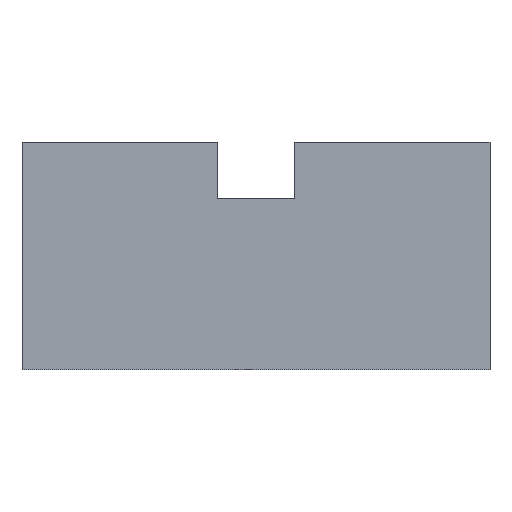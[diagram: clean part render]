
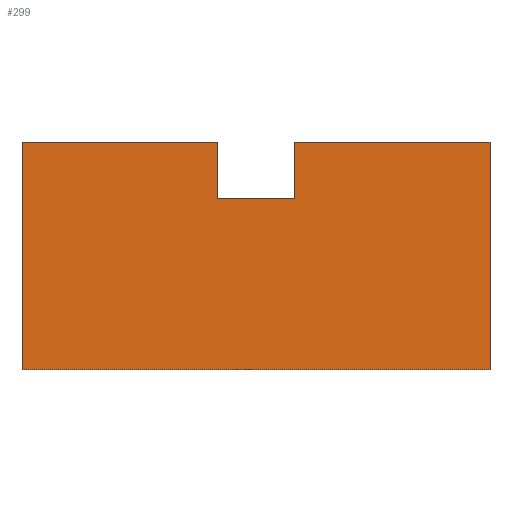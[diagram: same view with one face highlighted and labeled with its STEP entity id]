
A CAD part, top view. The second image highlights one B-rep face of the part: STEP entity #299.
In plain terms, the highlighted planar face has unit normal (0, 0, 1).
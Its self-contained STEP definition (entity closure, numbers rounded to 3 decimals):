
#42 = VERTEX_POINT('',#43);
#43 = CARTESIAN_POINT('',(103.73,-50.47,1.51));
#49 = EDGE_CURVE('',#42,#50,#52,.T.);
#50 = VERTEX_POINT('',#51);
#51 = CARTESIAN_POINT('',(106.77,-50.47,1.51));
#52 = LINE('',#53,#54);
#53 = CARTESIAN_POINT('',(103.73,-50.47,1.51));
#54 = VECTOR('',#55,1.);
#55 = DIRECTION('',(1.,0.,0.));
#80 = EDGE_CURVE('',#50,#81,#83,.T.);
#81 = VERTEX_POINT('',#82);
#82 = CARTESIAN_POINT('',(106.77,-48.25,1.51));
#83 = LINE('',#84,#85);
#84 = CARTESIAN_POINT('',(106.77,-50.47,1.51));
#85 = VECTOR('',#86,1.);
#86 = DIRECTION('',(0.,1.,0.));
#111 = EDGE_CURVE('',#81,#112,#114,.T.);
#112 = VERTEX_POINT('',#113);
#113 = CARTESIAN_POINT('',(114.45,-48.25,1.51));
#114 = LINE('',#115,#116);
#115 = CARTESIAN_POINT('',(106.77,-48.25,1.51));
#116 = VECTOR('',#117,1.);
#117 = DIRECTION('',(1.,0.,0.));
#142 = EDGE_CURVE('',#112,#143,#145,.T.);
#143 = VERTEX_POINT('',#144);
#144 = CARTESIAN_POINT('',(114.45,-57.2,1.51));
#145 = LINE('',#146,#147);
#146 = CARTESIAN_POINT('',(114.45,-48.25,1.51));
#147 = VECTOR('',#148,1.);
#148 = DIRECTION('',(0.,-1.,0.));
#173 = EDGE_CURVE('',#143,#174,#176,.T.);
#174 = VERTEX_POINT('',#175);
#175 = CARTESIAN_POINT('',(96.05,-57.2,1.51));
#176 = LINE('',#177,#178);
#177 = CARTESIAN_POINT('',(114.45,-57.2,1.51));
#178 = VECTOR('',#179,1.);
#179 = DIRECTION('',(-1.,0.,0.));
#204 = EDGE_CURVE('',#174,#205,#207,.T.);
#205 = VERTEX_POINT('',#206);
#206 = CARTESIAN_POINT('',(96.05,-48.25,1.51));
#207 = LINE('',#208,#209);
#208 = CARTESIAN_POINT('',(96.05,-57.2,1.51));
#209 = VECTOR('',#210,1.);
#210 = DIRECTION('',(0.,1.,0.));
#235 = EDGE_CURVE('',#205,#236,#238,.T.);
#236 = VERTEX_POINT('',#237);
#237 = CARTESIAN_POINT('',(103.73,-48.25,1.51));
#238 = LINE('',#239,#240);
#239 = CARTESIAN_POINT('',(96.05,-48.25,1.51));
#240 = VECTOR('',#241,1.);
#241 = DIRECTION('',(1.,0.,0.));
#266 = EDGE_CURVE('',#236,#42,#267,.T.);
#267 = LINE('',#268,#269);
#268 = CARTESIAN_POINT('',(103.73,-48.25,1.51));
#269 = VECTOR('',#270,1.);
#270 = DIRECTION('',(0.,-1.,0.));
#299 = ADVANCED_FACE('',(#300),#310,.T.);
#300 = FACE_BOUND('',#301,.F.);
#301 = EDGE_LOOP('',(#302,#303,#304,#305,#306,#307,#308,#309));
#302 = ORIENTED_EDGE('',*,*,#49,.T.);
#303 = ORIENTED_EDGE('',*,*,#80,.T.);
#304 = ORIENTED_EDGE('',*,*,#111,.T.);
#305 = ORIENTED_EDGE('',*,*,#142,.T.);
#306 = ORIENTED_EDGE('',*,*,#173,.T.);
#307 = ORIENTED_EDGE('',*,*,#204,.T.);
#308 = ORIENTED_EDGE('',*,*,#235,.T.);
#309 = ORIENTED_EDGE('',*,*,#266,.T.);
#310 = PLANE('',#311);
#311 = AXIS2_PLACEMENT_3D('',#312,#313,#314);
#312 = CARTESIAN_POINT('',(0.,0.,1.51));
#313 = DIRECTION('',(0.,0.,1.));
#314 = DIRECTION('',(1.,0.,-0.));
